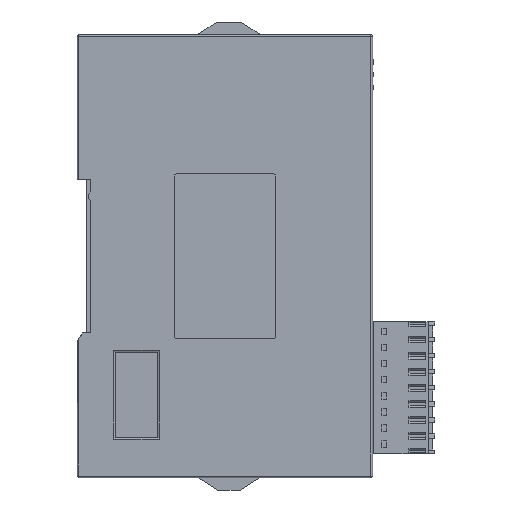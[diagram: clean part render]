
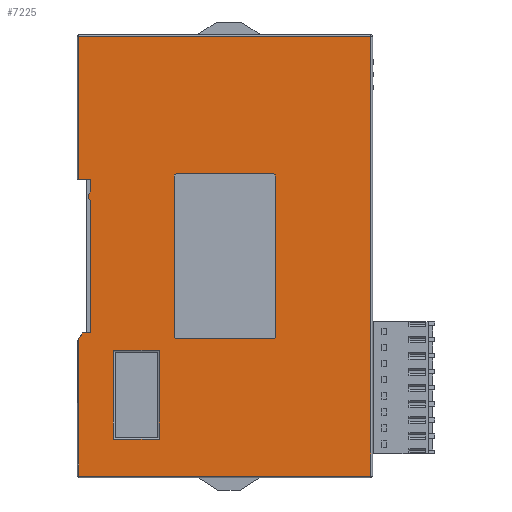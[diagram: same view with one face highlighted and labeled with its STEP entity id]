
A CAD part, left-side view. The second image highlights one B-rep face of the part: STEP entity #7225.
In plain terms, the highlighted planar face has unit normal (-1, 0, 0).
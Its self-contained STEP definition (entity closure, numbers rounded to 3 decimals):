
#7225=ADVANCED_FACE('',(#19624,#19626,#19628),#19630,.T.);
#19624=FACE_BOUND('',#19625,.T.);
#19625=EDGE_LOOP('',(#28432,#28433,#28434,#28435,#28436,#28437,#28438,#28439,#28440,
#28441,#28442));
#19626=FACE_BOUND('',#19627,.T.);
#19627=EDGE_LOOP('',(#28443,#28444,#28445,#28446,#28447,#28448,#28449,#28450));
#19628=FACE_BOUND('',#19629,.T.);
#19629=EDGE_LOOP('',(#28451,#28452,#28453,#28454));
#19630=PLANE('',#19631);
#19631=AXIS2_PLACEMENT_3D('',#19632,#19633,#19634);
#19632=CARTESIAN_POINT('',(-345.903,-44.348,173.566));
#19633=DIRECTION('',(-1.,0.,0.));
#19634=DIRECTION('',(0.,0.,1.));
#28432=ORIENTED_EDGE('',*,*,#34763,.F.);
#28433=ORIENTED_EDGE('',*,*,#34764,.F.);
#28434=ORIENTED_EDGE('',*,*,#34765,.T.);
#28435=ORIENTED_EDGE('',*,*,#34766,.T.);
#28436=ORIENTED_EDGE('',*,*,#34767,.T.);
#28437=ORIENTED_EDGE('',*,*,#34768,.T.);
#28438=ORIENTED_EDGE('',*,*,#34769,.T.);
#28439=ORIENTED_EDGE('',*,*,#34770,.F.);
#28440=ORIENTED_EDGE('',*,*,#34771,.F.);
#28441=ORIENTED_EDGE('',*,*,#34772,.F.);
#28442=ORIENTED_EDGE('',*,*,#34132,.F.);
#28443=ORIENTED_EDGE('',*,*,#34773,.F.);
#28444=ORIENTED_EDGE('',*,*,#34774,.F.);
#28445=ORIENTED_EDGE('',*,*,#34775,.F.);
#28446=ORIENTED_EDGE('',*,*,#34776,.F.);
#28447=ORIENTED_EDGE('',*,*,#34777,.F.);
#28448=ORIENTED_EDGE('',*,*,#34778,.F.);
#28449=ORIENTED_EDGE('',*,*,#34779,.F.);
#28450=ORIENTED_EDGE('',*,*,#34780,.F.);
#28451=ORIENTED_EDGE('',*,*,#34781,.F.);
#28452=ORIENTED_EDGE('',*,*,#34782,.F.);
#28453=ORIENTED_EDGE('',*,*,#34783,.F.);
#28454=ORIENTED_EDGE('',*,*,#34784,.F.);
#34132=EDGE_CURVE('',#40933,#40931,#40935,.T.);
#34763=EDGE_CURVE('',#41951,#40933,#41952,.T.);
#34764=EDGE_CURVE('',#41953,#41951,#41954,.T.);
#34765=EDGE_CURVE('',#41953,#41955,#41956,.T.);
#34766=EDGE_CURVE('',#41955,#41957,#41958,.T.);
#34767=EDGE_CURVE('',#41957,#41959,#41960,.T.);
#34768=EDGE_CURVE('',#41959,#41961,#41962,.T.);
#34769=EDGE_CURVE('',#41961,#41963,#41964,.T.);
#34770=EDGE_CURVE('',#41965,#41963,#41966,.T.);
#34771=EDGE_CURVE('',#41967,#41965,#41968,.T.);
#34772=EDGE_CURVE('',#40931,#41967,#41969,.T.);
#34773=EDGE_CURVE('',#41970,#41971,#41972,.T.);
#34774=EDGE_CURVE('',#41973,#41970,#41974,.T.);
#34775=EDGE_CURVE('',#41975,#41973,#41976,.T.);
#34776=EDGE_CURVE('',#41977,#41975,#41978,.T.);
#34777=EDGE_CURVE('',#41979,#41977,#41980,.T.);
#34778=EDGE_CURVE('',#41981,#41979,#41982,.T.);
#34779=EDGE_CURVE('',#41983,#41981,#41984,.T.);
#34780=EDGE_CURVE('',#41971,#41983,#41985,.T.);
#34781=EDGE_CURVE('',#41986,#41987,#41988,.T.);
#34782=EDGE_CURVE('',#41989,#41986,#41990,.T.);
#34783=EDGE_CURVE('',#41991,#41989,#41992,.T.);
#34784=EDGE_CURVE('',#41987,#41991,#41993,.T.);
#40931=VERTEX_POINT('',#52044);
#40933=VERTEX_POINT('',#52049);
#40935=LINE('',#52054,#52055);
#41951=VERTEX_POINT('',#56179);
#41952=LINE('',#56180,#56181);
#41953=VERTEX_POINT('',#56183);
#41954=LINE('',#56184,#56185);
#41955=VERTEX_POINT('',#56187);
#41956=LINE('',#56188,#56189);
#41957=VERTEX_POINT('',#56191);
#41958=LINE('',#56192,#56193);
#41959=VERTEX_POINT('',#56195);
#41960=CIRCLE('',#56196,2.);
#41961=VERTEX_POINT('',#56200);
#41962=LINE('',#56201,#56202);
#41963=VERTEX_POINT('',#56204);
#41964=LINE('',#56205,#56206);
#41965=VERTEX_POINT('',#56208);
#41966=LINE('',#56209,#56210);
#41967=VERTEX_POINT('',#56212);
#41968=LINE('',#56213,#56214);
#41969=LINE('',#56216,#56217);
#41970=VERTEX_POINT('',#56219);
#41971=VERTEX_POINT('',#56220);
#41972=LINE('',#56221,#56222);
#41973=VERTEX_POINT('',#56224);
#41974=CIRCLE('',#56225,0.5);
#41975=VERTEX_POINT('',#56229);
#41976=LINE('',#56230,#56231);
#41977=VERTEX_POINT('',#56233);
#41978=CIRCLE('',#56234,0.5);
#41979=VERTEX_POINT('',#56238);
#41980=LINE('',#56239,#56240);
#41981=VERTEX_POINT('',#56242);
#41982=CIRCLE('',#56243,0.5);
#41983=VERTEX_POINT('',#56247);
#41984=LINE('',#56248,#56249);
#41985=CIRCLE('',#56251,0.5);
#41986=VERTEX_POINT('',#56255);
#41987=VERTEX_POINT('',#56256);
#41988=LINE('',#56257,#56258);
#41989=VERTEX_POINT('',#56260);
#41990=LINE('',#56261,#56262);
#41991=VERTEX_POINT('',#56264);
#41992=LINE('',#56265,#56266);
#41993=LINE('',#56268,#56269);
#52044=CARTESIAN_POINT('',(-345.903,-120.48,183.998));
#52049=CARTESIAN_POINT('',(-345.903,-120.48,288.198));
#52054=CARTESIAN_POINT('',(-345.903,-120.48,288.198));
#52055=VECTOR('',#52056,1.);
#52056=DIRECTION('',(0.,0.,-1.));
#56179=CARTESIAN_POINT('',(-345.903,-51.28,288.198));
#56180=CARTESIAN_POINT('',(-345.903,-51.28,288.198));
#56181=VECTOR('',#56182,1.);
#56182=DIRECTION('',(0.,-1.,0.));
#56183=CARTESIAN_POINT('',(-345.903,-51.28,254.298));
#56184=CARTESIAN_POINT('',(-345.903,-51.28,254.298));
#56185=VECTOR('',#56186,1.);
#56186=DIRECTION('',(0.,0.,1.));
#56187=CARTESIAN_POINT('',(-345.903,-54.08,254.298));
#56188=CARTESIAN_POINT('',(-345.903,-51.28,254.298));
#56189=VECTOR('',#56190,1.);
#56190=DIRECTION('',(0.,-1.,0.));
#56191=CARTESIAN_POINT('',(-345.903,-54.08,251.62));
#56192=CARTESIAN_POINT('',(-345.903,-54.08,254.298));
#56193=VECTOR('',#56194,1.);
#56194=DIRECTION('',(0.,0.,-1.));
#56195=CARTESIAN_POINT('',(-345.903,-54.08,248.975));
#56196=AXIS2_PLACEMENT_3D('',#56197,#56198,#56199);
#56197=CARTESIAN_POINT('',(-345.903,-55.58,250.298));
#56198=DIRECTION('',(-1.,0.,0.));
#56199=DIRECTION('',(0.,0.75,0.661));
#56200=CARTESIAN_POINT('',(-345.903,-54.08,217.898));
#56201=CARTESIAN_POINT('',(-345.903,-54.08,248.975));
#56202=VECTOR('',#56203,1.);
#56203=DIRECTION('',(0.,0.,-1.));
#56204=CARTESIAN_POINT('',(-345.903,-52.08,217.898));
#56205=CARTESIAN_POINT('',(-345.903,-54.08,217.898));
#56206=VECTOR('',#56207,1.);
#56207=DIRECTION('',(0.,1.,0.));
#56208=CARTESIAN_POINT('',(-345.903,-51.28,216.564));
#56209=CARTESIAN_POINT('',(-345.903,-51.28,216.564));
#56210=VECTOR('',#56211,1.);
#56211=DIRECTION('',(0.,-0.515,0.857));
#56212=CARTESIAN_POINT('',(-345.903,-51.28,183.998));
#56213=CARTESIAN_POINT('',(-345.903,-51.28,183.998));
#56214=VECTOR('',#56215,1.);
#56215=DIRECTION('',(0.,0.,1.));
#56216=CARTESIAN_POINT('',(-345.903,-120.48,183.998));
#56217=VECTOR('',#56218,1.);
#56218=DIRECTION('',(0.,1.,0.));
#56219=CARTESIAN_POINT('',(-345.903,-97.38,255.598));
#56220=CARTESIAN_POINT('',(-345.903,-74.38,255.598));
#56221=CARTESIAN_POINT('',(-345.903,-97.38,255.598));
#56222=VECTOR('',#56223,1.);
#56223=DIRECTION('',(0.,1.,0.));
#56224=CARTESIAN_POINT('',(-345.903,-97.88,255.098));
#56225=AXIS2_PLACEMENT_3D('',#56226,#56227,#56228);
#56226=CARTESIAN_POINT('',(-345.903,-97.38,255.098));
#56227=DIRECTION('',(-1.,0.,0.));
#56228=DIRECTION('',(0.,-1.,0.));
#56229=CARTESIAN_POINT('',(-345.903,-97.88,217.098));
#56230=CARTESIAN_POINT('',(-345.903,-97.88,217.098));
#56231=VECTOR('',#56232,1.);
#56232=DIRECTION('',(0.,0.,1.));
#56233=CARTESIAN_POINT('',(-345.903,-97.38,216.598));
#56234=AXIS2_PLACEMENT_3D('',#56235,#56236,#56237);
#56235=CARTESIAN_POINT('',(-345.903,-97.38,217.098));
#56236=DIRECTION('',(-1.,0.,0.));
#56237=DIRECTION('',(0.,0.,-1.));
#56238=CARTESIAN_POINT('',(-345.903,-74.38,216.598));
#56239=CARTESIAN_POINT('',(-345.903,-74.38,216.598));
#56240=VECTOR('',#56241,1.);
#56241=DIRECTION('',(0.,-1.,0.));
#56242=CARTESIAN_POINT('',(-345.903,-73.88,217.098));
#56243=AXIS2_PLACEMENT_3D('',#56244,#56245,#56246);
#56244=CARTESIAN_POINT('',(-345.903,-74.38,217.098));
#56245=DIRECTION('',(-1.,0.,0.));
#56246=DIRECTION('',(0.,1.,0.));
#56247=CARTESIAN_POINT('',(-345.903,-73.88,255.098));
#56248=CARTESIAN_POINT('',(-345.903,-73.88,255.098));
#56249=VECTOR('',#56250,1.);
#56250=DIRECTION('',(0.,0.,-1.));
#56251=AXIS2_PLACEMENT_3D('',#56252,#56253,#56254);
#56252=CARTESIAN_POINT('',(-345.903,-74.38,255.098));
#56253=DIRECTION('',(-1.,0.,0.));
#56254=DIRECTION('',(0.,0.,1.));
#56255=CARTESIAN_POINT('',(-345.903,-70.34,192.748));
#56256=CARTESIAN_POINT('',(-345.903,-70.34,213.748));
#56257=CARTESIAN_POINT('',(-345.903,-70.34,192.748));
#56258=VECTOR('',#56259,1.);
#56259=DIRECTION('',(0.,0.,1.));
#56260=CARTESIAN_POINT('',(-345.903,-59.45,192.748));
#56261=CARTESIAN_POINT('',(-345.903,-59.45,192.748));
#56262=VECTOR('',#56263,1.);
#56263=DIRECTION('',(0.,-1.,0.));
#56264=CARTESIAN_POINT('',(-345.903,-59.45,213.748));
#56265=CARTESIAN_POINT('',(-345.903,-59.45,213.748));
#56266=VECTOR('',#56267,1.);
#56267=DIRECTION('',(0.,0.,-1.));
#56268=CARTESIAN_POINT('',(-345.903,-70.34,213.748));
#56269=VECTOR('',#56270,1.);
#56270=DIRECTION('',(0.,1.,0.));
